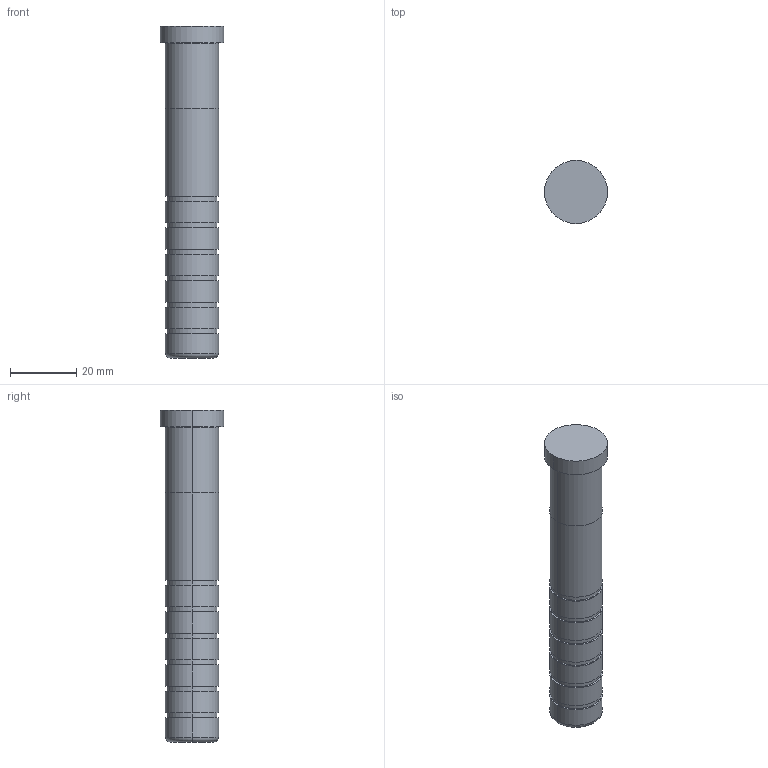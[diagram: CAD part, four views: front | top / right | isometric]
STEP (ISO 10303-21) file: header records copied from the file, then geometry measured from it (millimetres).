
FILE_DESCRIPTION(/* description */ (''),/* implementation_level */ '2;1');
FILE_NAME(/* name */ '3d_sgoh16-100_05235_r00.stp',/* time_stamp */ '2011-01-10T14:11:09+09:00',/* author */ ('MISUMI'),/* organization */ (''),/* preprocessor_version */ 'ST-DEVELOPER v11',/* originating_system */ 'UGS - NX 5.0',/* authorisation */ '');
FILE_SCHEMA (('CONFIG_CONTROL_DESIGN'));
Length unit declared in the file: millimetre
Products named in the file (1): 3d_sgoh16-100_05235_r00
Bounding box: 19 x 19 x 100 mm (x, y, z)
Volume: 20276.8 mm3; surface area: 5865.9 mm2
Topology: 1 solids, 1 shells, 49 faces, 96 edges, 62 vertices
Faces by surface type: cylinder 30, plane 15, torus 4
Entity records: 1374 total; most frequent: DIRECTION 262, CARTESIAN_POINT 208, ORIENTED_EDGE 192, AXIS2_PLACEMENT_3D 116, EDGE_CURVE 96, CIRCLE 66, EDGE_LOOP 62, VERTEX_POINT 62
